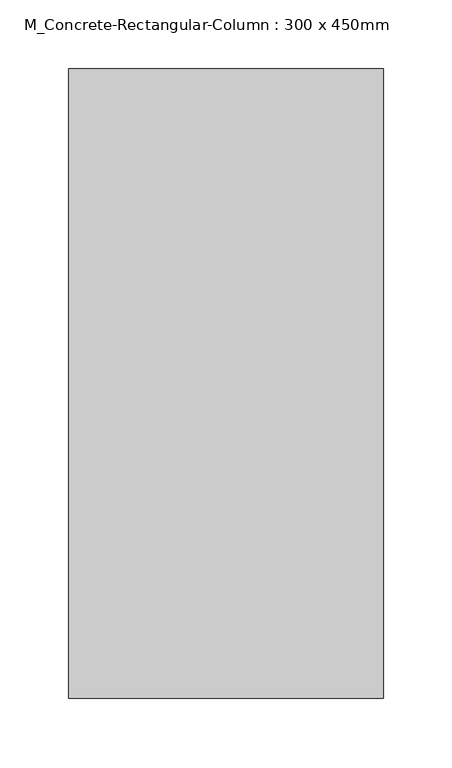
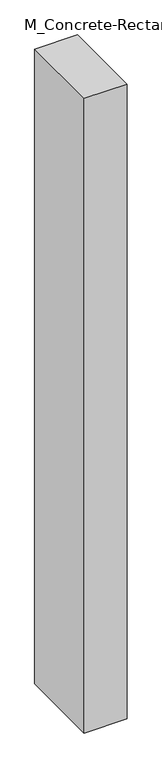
"""IFC4 building model written with IfcOpenShell, lengths in millimetres: column geometry, M_Concrete-Rectangular-Column : 300 x 450mm."""

from ifc_helpers import new_model, si_unit, origin, origin_with_axes, place, context, project, spatial, polyline, outline, extrude, source, transform, mapped, element, save


def m_concrete_rectangular_column_300_x_450mm_4033bf20(model_context):
    return source(origin(), model_context, "Body", "SweptSolid", [
        extrude(outline(polyline([(114.3, 228.6), (114.3, -228.6), (-114.3, -228.6), (-114.3, 228.6), (114.3, 228.6)])), origin_with_axes(), (0.0, 0.0, 1.0), 3581.4),
    ])


if __name__ == "__main__":
    model = new_model("IFC4")
    model_context = context("Model", 3, world=origin())
    ifc_project = project(units=[si_unit("LENGTHUNIT", "METRE", prefix="MILLI")], contexts=[model_context])
    site = spatial("IfcSite", under=ifc_project)
    building = spatial("IfcBuilding", under=site)
    placement = place(None, origin())
    m_concrete_rectangular_column_300_x_450mm_shape = m_concrete_rectangular_column_300_x_450mm_4033bf20(model_context)
    element("IfcColumn", 1, ObjectType="M_Concrete-Rectangular-Column : 300 x 450mm", at=placement, inside=building, context=model_context, shape_type="MappedRepresentation", body=[
        mapped(m_concrete_rectangular_column_300_x_450mm_shape, transform((0.0, 0.0, 0.0), x_axis=(1.0, 0.0, 0.0), y_axis=(0.0, 1.0, 0.0), z_axis=(0.0, 0.0, 1.0))),
    ])
    save(model, "model.ifc")
